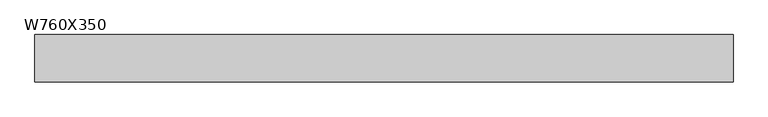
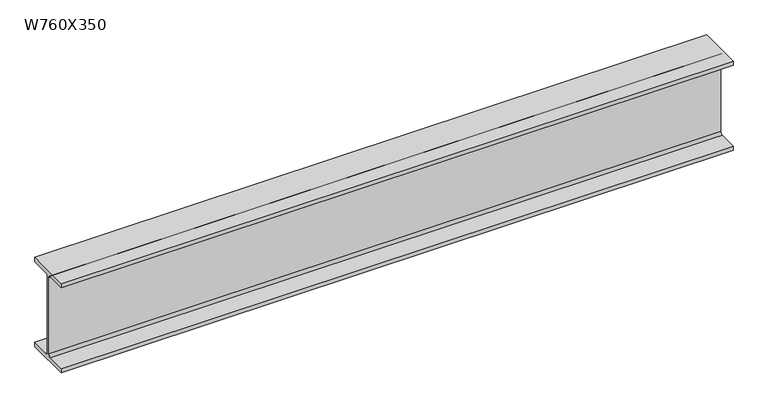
"""IFC4 building model written with IfcOpenShell, lengths in millimetres: beam geometry, M_W Shapes : W760X350."""

from ifc_helpers import new_model, si_unit, point, frame, frame_2d, origin, place, context, project, spatial, polyline, circle_curve, trimmed, segment, composite_curve, outline, extrude, source, transform, mapped, element, save


def w760x350_2e6ff1b6(model_context):
    return source(origin(), model_context, "Body", "SweptSolid", [
        extrude(outline(composite_curve([segment(polyline([(192.0, -359.4), (192.0, -397.5), (-192.0, -397.5), (-192.0, -359.4), (-30.65, -359.4)]), True, "CONTINUOUS"), segment(trimmed(circle_curve(frame_2d((-30.65, -339.3)), 20.1), [point((-30.65, -359.4))], [point((-10.55, -339.3))], True, "CARTESIAN"), True, "CONTINUOUS"), segment(polyline([(-10.55, -339.3), (-10.55, 339.3)]), True, "CONTINUOUS"), segment(trimmed(circle_curve(frame_2d((-30.65, 339.3)), 20.1), [point((-10.55, 339.3))], [point((-30.65, 359.4))], True, "CARTESIAN"), True, "CONTINUOUS"), segment(polyline([(-30.65, 359.4), (-192.0, 359.4), (-192.0, 397.5), (192.0, 397.5), (192.0, 359.4), (30.65, 359.4)]), True, "CONTINUOUS"), segment(trimmed(circle_curve(frame_2d((30.65, 339.3)), 20.1), [point((30.65, 359.4))], [point((10.55, 339.3))], True, "CARTESIAN"), True, "CONTINUOUS"), segment(polyline([(10.55, 339.3), (10.55, -339.3)]), True, "CONTINUOUS"), segment(trimmed(circle_curve(frame_2d((30.65, -339.3)), 20.1), [point((10.55, -339.3))], [point((30.65, -359.4))], True, "CARTESIAN"), True, "CONTINUOUS"), segment(polyline([(30.65, -359.4), (192.0, -359.4)]), True, "CONTINUOUS")], self_intersect=False)), frame((-2844.9, 0.0, 0.0), z_axis=(1.0, 0.0, 0.0), x_axis=(0.0, 1.0, 0.0)), (0.0, 0.0, 1.0), 5661.2),
    ])


if __name__ == "__main__":
    model = new_model("IFC4")
    model_context = context("Model", 3, world=origin())
    ifc_project = project(units=[si_unit("LENGTHUNIT", "METRE", prefix="MILLI")], contexts=[model_context])
    site = spatial("IfcSite", under=ifc_project)
    building = spatial("IfcBuilding", under=site)
    placement = place(None, origin())
    w760x350_shape = w760x350_2e6ff1b6(model_context)
    element("IfcBeam", 1, ObjectType="M_W Shapes : W760X350", at=placement, inside=building, context=model_context, shape_type="MappedRepresentation", body=[
        mapped(w760x350_shape, transform((0.0, 0.0, 0.0), x_axis=(1.0, 0.0, 0.0), y_axis=(0.0, 1.0, 0.0), z_axis=(0.0, 0.0, 1.0))),
    ])
    save(model, "model.ifc")
